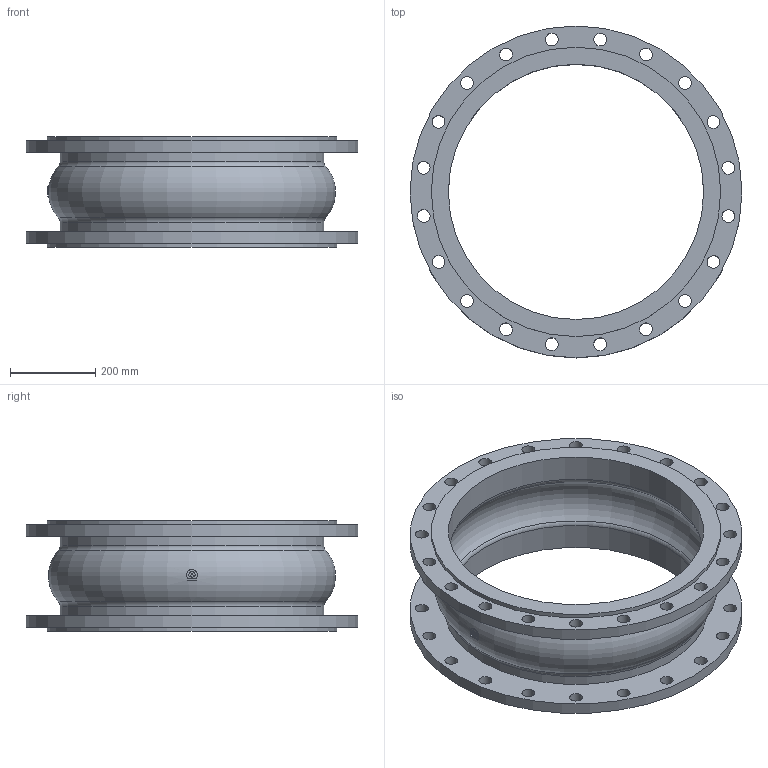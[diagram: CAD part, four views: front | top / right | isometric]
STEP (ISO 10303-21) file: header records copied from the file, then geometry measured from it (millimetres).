
FILE_DESCRIPTION(('STEP AP203'), '1');
FILE_NAME('Êîìïåíñàòîð KMS DN600 PN10_L260', '', ('UNSPECIFIED'), ('UNSPECIFIED'), 'ASCON STEP Converter 1.6', 'ASCON Math Kernel', '');
FILE_SCHEMA(('CONFIG_CONTROL_DESIGN'));
Length unit declared in the file: millimetre
Bounding box: 780 x 780 x 260 mm (x, y, z)
Volume: 15400581.8 mm3; surface area: 1901659.3 mm2
Topology: 1 solids, 1 shells, 77 faces, 196 edges, 128 vertices
Faces by surface type: cylinder 55, plane 13, torus 9
Full cylindrical faces by diameter (mm): 30 x40, 600 x2, 620 x2, 680 x2, 780 x2
Entity records: 3956 total; most frequent: CARTESIAN_POINT 1431, DIRECTION 382, ORIENTED_EDGE 284, EDGE_LOOP 220, AXIS2_PLACEMENT_3D 184, EDGE_CURVE 142, VERTEX_POINT 128, FACE_BOUND 112
